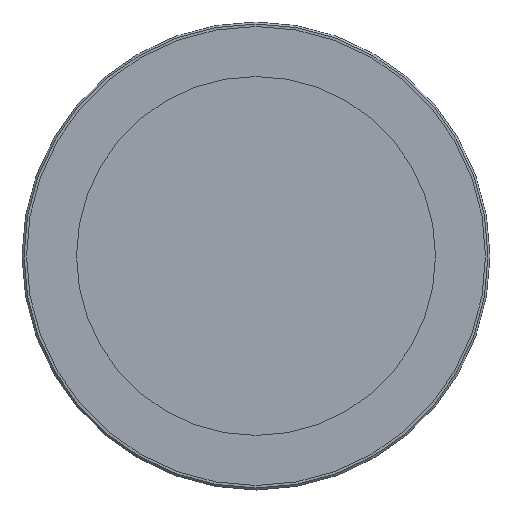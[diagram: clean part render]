
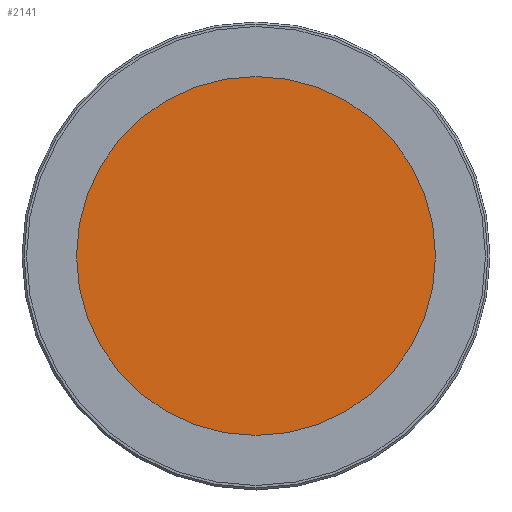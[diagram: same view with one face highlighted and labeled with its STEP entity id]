
A CAD part, top view. The second image highlights one B-rep face of the part: STEP entity #2141.
In plain terms, the highlighted planar face has unit normal (0, 0, 1).
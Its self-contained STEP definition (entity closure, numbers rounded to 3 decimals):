
#1019=CARTESIAN_POINT('',(0.,0.,3.7));
#1020=DIRECTION('',(0.,0.,1.));
#1021=DIRECTION('',(1.,0.,0.));
#1022=AXIS2_PLACEMENT_3D('',#1019,#1020,#1021);
#1027=CARTESIAN_POINT('',(0.,0.,3.7));
#1028=DIRECTION('',(0.,0.,1.));
#1029=DIRECTION('',(-1.,0.,0.));
#1030=AXIS2_PLACEMENT_3D('',#1027,#1028,#1029);
#1046=CARTESIAN_POINT('',(44.1,0.,3.7));
#1047=CARTESIAN_POINT('',(-44.1,0.,3.7));
#1048=VERTEX_POINT('',#1046);
#1049=VERTEX_POINT('',#1047);
#2132=CARTESIAN_POINT('',(0.,0.,3.7));
#2133=DIRECTION('',(0.,0.,1.));
#2134=DIRECTION('',(1.,0.,0.));
#2135=AXIS2_PLACEMENT_3D('',#2132,#2133,#2134);
#2136=PLANE('',#2135);
#2137=ORIENTED_EDGE('',*,*,#2112,.F.);
#2138=ORIENTED_EDGE('',*,*,#2126,.F.);
#2139=EDGE_LOOP('',(#2137,#2138));
#2140=FACE_OUTER_BOUND('',#2139,.F.);
#2141=ADVANCED_FACE('',(#2140),#2136,.T.);
#1023=CIRCLE('',#1022,44.1);
#1031=CIRCLE('',#1030,44.1);
#2112=EDGE_CURVE('',#1048,#1049,#1023,.T.);
#2126=EDGE_CURVE('',#1049,#1048,#1031,.T.);
